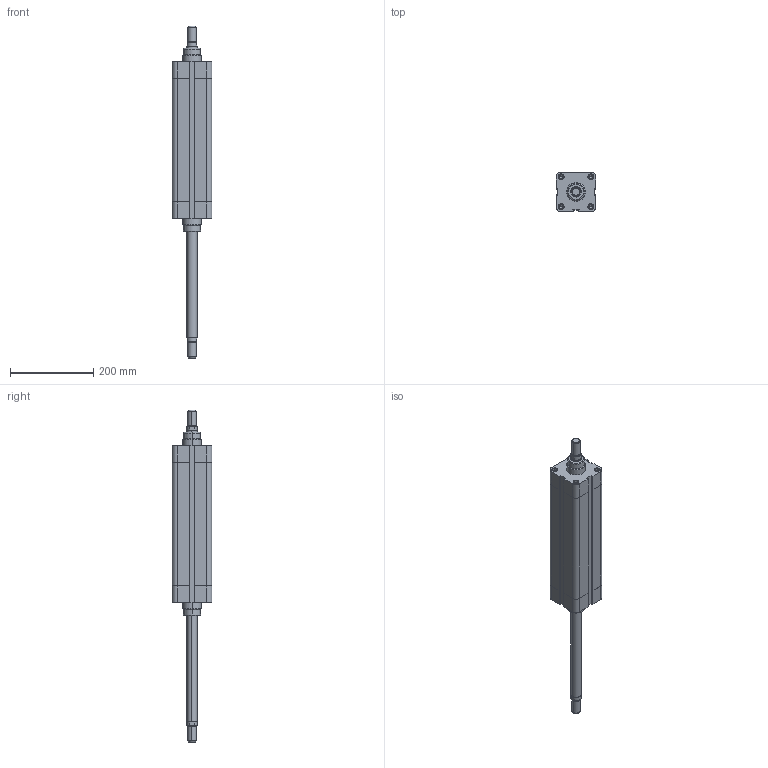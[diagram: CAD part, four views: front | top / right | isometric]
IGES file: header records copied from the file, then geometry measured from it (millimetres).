
Global section: file name: No Iges File Name specified; native system: AutoDesk Inventor R6.1; preprocessor: AutoDesk Inventor Iges Exporter R6.1; author: No Author specified; organization: No Organization specified; date: 20040107.171251; units: millimetre
Bounding box: 95.5 x 95.5 x 800 mm (x, y, z)
Volume: 3547044 mm3; surface area: 288813.9 mm2
Topology: 2 solids, 2 shells, 236 faces, 564 edges, 356 vertices
Faces by surface type: plane 80, bspline 62, cylinder 42, revolution 32, cone 16, torus 4
